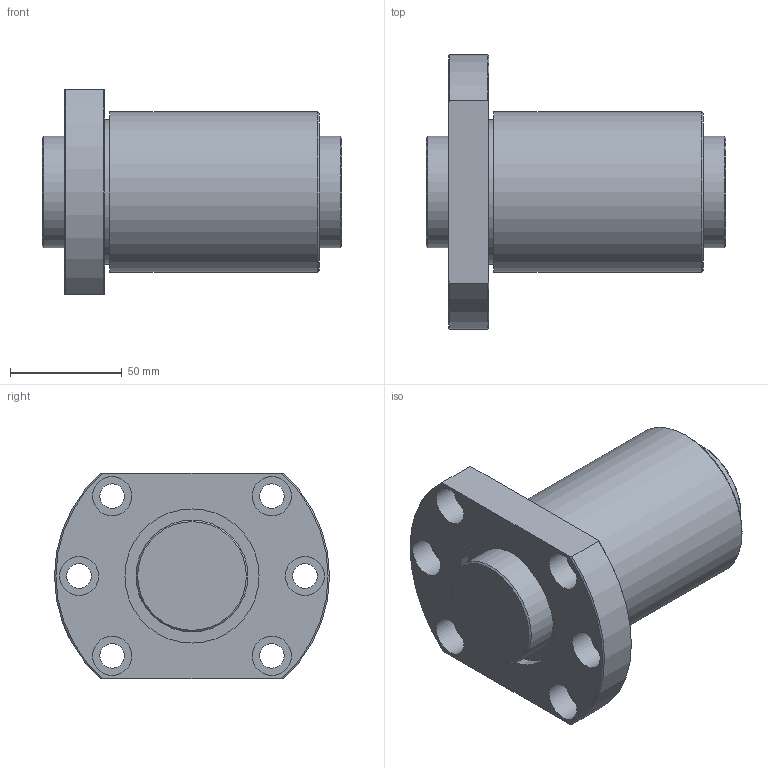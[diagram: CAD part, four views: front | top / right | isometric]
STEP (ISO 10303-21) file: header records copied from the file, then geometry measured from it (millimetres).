
FILE_DESCRIPTION(/* description */ ('STEP AP203'),/* implementation_level */ '2;1');
FILE_NAME(/* name */ 'DK5010-6RRG1+134LC0_000',/* time_stamp */ '2025-01-13T09:20:56+01:00',/* author */ ('License CC BY-ND 4.0'),/* organization */ ('CADENAS'),/* preprocessor_version */ 'ST-DEVELOPER v19.3',/* originating_system */ 'PARTsolutions',/* authorisation */ ' ');
FILE_SCHEMA (('CONFIG_CONTROL_DESIGN'));
Length unit declared in the file: millimetre
Products named in the file (3): DK5010-6RRG1+134LC0_000; DK 5010-6RR013400 Shaft; DK 5010-6RR0Nut
Assembly tree (2 placements, depth 2):
  DK5010-6RRG1+134LC0_000
    DK 5010-6RR013400 Shaft
    DK 5010-6RR0Nut
Bounding box: 134 x 123 x 92 mm (x, y, z)
Volume: 580657.7 mm3; surface area: 93854 mm2
Topology: 2 solids, 2 shells, 46 faces, 94 edges, 62 vertices
Faces by surface type: cylinder 21, plane 16, cone 9
Full cylindrical faces by diameter (mm): 8.566 x1, 11 x6, 17.5 x6, 50 x2, 60 x2, 64.8 x1, 72 x1
Entity records: 1223 total; most frequent: CARTESIAN_POINT 227, DIRECTION 204, ORIENTED_EDGE 134, AXIS2_PLACEMENT_3D 98, EDGE_LOOP 96, FACE_BOUND 96, EDGE_CURVE 67, VERTEX_POINT 59
